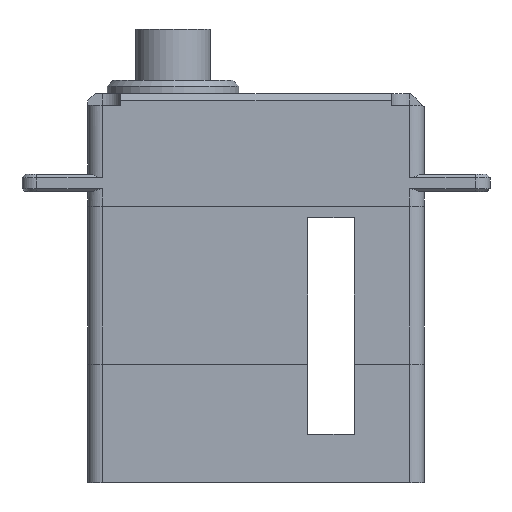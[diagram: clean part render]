
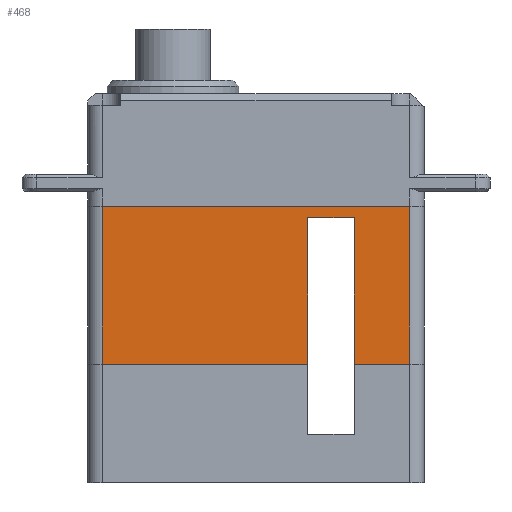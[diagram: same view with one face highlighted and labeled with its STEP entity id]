
A CAD part, front view. The second image highlights one B-rep face of the part: STEP entity #468.
In plain terms, the highlighted planar face has unit normal (0, -1, 0).
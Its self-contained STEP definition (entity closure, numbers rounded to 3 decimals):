
#468=ADVANCED_FACE('',(#1019),#723,.T.);
#723=PLANE('',#6239);
#1019=FACE_OUTER_BOUND('',#1380,.T.);
#1380=EDGE_LOOP('',(#2802,#2803,#2804,#2805,#2806,#2807,#2808,#2809));
#2802=ORIENTED_EDGE('',*,*,#4584,.F.);
#2803=ORIENTED_EDGE('',*,*,#4498,.F.);
#2804=ORIENTED_EDGE('',*,*,#4614,.T.);
#2805=ORIENTED_EDGE('',*,*,#4608,.T.);
#2806=ORIENTED_EDGE('',*,*,#4626,.F.);
#2807=ORIENTED_EDGE('',*,*,#4466,.F.);
#2808=ORIENTED_EDGE('',*,*,#4579,.T.);
#2809=ORIENTED_EDGE('',*,*,#4623,.T.);
#3807=VERTEX_POINT('',#9147);
#3808=VERTEX_POINT('',#9149);
#3838=VERTEX_POINT('',#9212);
#3839=VERTEX_POINT('',#9214);
#3905=VERTEX_POINT('',#9367);
#3909=VERTEX_POINT('',#9379);
#3932=VERTEX_POINT('',#9426);
#3933=VERTEX_POINT('',#9428);
#4466=EDGE_CURVE('',#3807,#3808,#5148,.T.);
#4498=EDGE_CURVE('',#3838,#3839,#5163,.T.);
#4579=EDGE_CURVE('',#3807,#3905,#5185,.T.);
#4584=EDGE_CURVE('',#3839,#3909,#5190,.T.);
#4608=EDGE_CURVE('',#3933,#3932,#5199,.T.);
#4614=EDGE_CURVE('',#3838,#3933,#5200,.T.);
#4623=EDGE_CURVE('',#3905,#3909,#5206,.T.);
#4626=EDGE_CURVE('',#3808,#3932,#5209,.T.);
#5148=LINE('',#9148,#5616);
#5163=LINE('',#9213,#5631);
#5185=LINE('',#9368,#5653);
#5190=LINE('',#9378,#5658);
#5199=LINE('',#9427,#5667);
#5200=LINE('',#9439,#5668);
#5206=LINE('',#9453,#5674);
#5209=LINE('',#9459,#5677);
#5616=VECTOR('',#7278,1.);
#5631=VECTOR('',#7331,1.);
#5653=VECTOR('',#7485,1.);
#5658=VECTOR('',#7494,1.);
#5667=VECTOR('',#7535,1.);
#5668=VECTOR('',#7548,1.);
#5674=VECTOR('',#7568,1.);
#5677=VECTOR('',#7577,1.);
#6239=AXIS2_PLACEMENT_3D('',#9461,#7580,#7581);
#7278=DIRECTION('',(-1.,0.,0.));
#7331=DIRECTION('',(-1.,0.,0.));
#7485=DIRECTION('',(0.,0.,1.));
#7494=DIRECTION('',(0.,0.,1.));
#7535=DIRECTION('',(-1.,0.,0.));
#7548=DIRECTION('',(0.,0.,1.));
#7568=DIRECTION('',(1.,0.,0.));
#7577=DIRECTION('',(0.,0.,1.));
#7580=DIRECTION('',(0.,-1.,0.));
#7581=DIRECTION('',(1.,0.,0.));
#9147=CARTESIAN_POINT('',(3.525,-6.,-10.8));
#9148=CARTESIAN_POINT('',(3.525,-6.,-10.8));
#9149=CARTESIAN_POINT('',(-10.5,-6.,-10.8));
#9212=CARTESIAN_POINT('',(10.5,-6.,-10.8));
#9213=CARTESIAN_POINT('',(10.5,-6.,-10.8));
#9214=CARTESIAN_POINT('',(6.725,-6.,-10.8));
#9367=CARTESIAN_POINT('',(3.525,-6.,-0.785));
#9368=CARTESIAN_POINT('',(3.525,-6.,-10.8));
#9378=CARTESIAN_POINT('',(6.725,-6.,0.));
#9379=CARTESIAN_POINT('',(6.725,-6.,-0.785));
#9426=CARTESIAN_POINT('',(-10.5,-6.,0.));
#9427=CARTESIAN_POINT('',(10.5,-6.,0.));
#9428=CARTESIAN_POINT('',(10.5,-6.,0.));
#9439=CARTESIAN_POINT('',(10.5,-6.,-10.8));
#9453=CARTESIAN_POINT('',(0.035,-6.,-0.785));
#9459=CARTESIAN_POINT('',(-10.5,-6.,-10.8));
#9461=CARTESIAN_POINT('',(11.5,-6.,0.));
